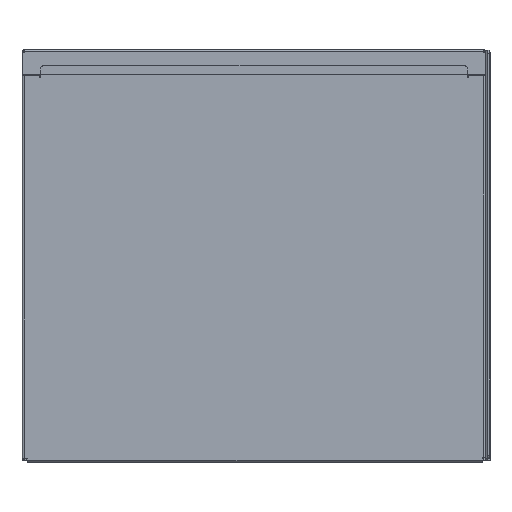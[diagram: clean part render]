
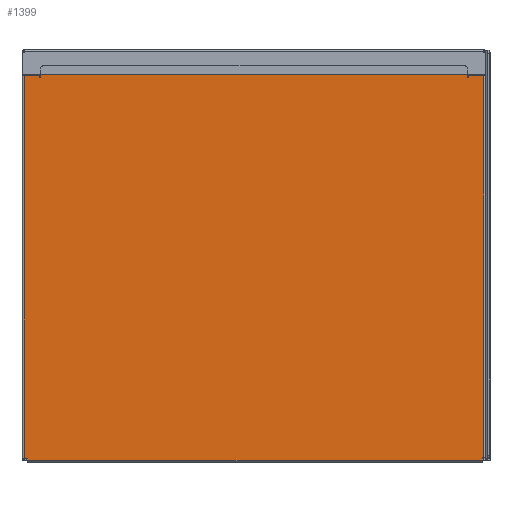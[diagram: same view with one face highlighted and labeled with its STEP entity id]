
A CAD part, top view. The second image highlights one B-rep face of the part: STEP entity #1399.
In plain terms, the highlighted planar face has unit normal (0, 0, 1) as drawn and (0, 0, -1) by its records, which use the part's own axes.
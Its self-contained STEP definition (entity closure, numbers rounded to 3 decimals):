
#9 = VECTOR ( 'NONE', #3614, 1000. ) ;
#57 = LINE ( 'NONE', #9229, #4018 ) ;
#125 = ORIENTED_EDGE ( 'NONE', *, *, #15084, .F. ) ;
#135 = ORIENTED_EDGE ( 'NONE', *, *, #16749, .F. ) ;
#613 = DIRECTION ( 'NONE',  ( 0., 0., 1. ) ) ;
#708 = CARTESIAN_POINT ( 'NONE',  ( 3420.749, 1024.791, -1. ) ) ;
#1197 = VECTOR ( 'NONE', #4254, 1000. ) ;
#1364 = VERTEX_POINT ( 'NONE', #1499 ) ;
#1399 = ADVANCED_FACE ( 'NONE', ( #12123 ), #20068, .F. ) ;
#1447 = CARTESIAN_POINT ( 'NONE',  ( 3430.399, 1025.991, -1. ) ) ;
#1499 = CARTESIAN_POINT ( 'NONE',  ( 3421.249, 1024.791, -1. ) ) ;
#1554 = CARTESIAN_POINT ( 'NONE',  ( 3421.249, 1024.791, -1. ) ) ;
#1915 = CARTESIAN_POINT ( 'NONE',  ( 3421.249, 1025.991, -1. ) ) ;
#1959 = CARTESIAN_POINT ( 'NONE',  ( 3167.449, 1029.991, -1. ) ) ;
#2096 = VERTEX_POINT ( 'NONE', #18006 ) ;
#2678 = EDGE_CURVE ( 'NONE', #18465, #21320, #8136, .T. ) ;
#2826 = LINE ( 'NONE', #6588, #20152 ) ;
#3248 = DIRECTION ( 'NONE',  ( 0., -1., 0. ) ) ;
#3355 = LINE ( 'NONE', #1554, #11690 ) ;
#3441 = CARTESIAN_POINT ( 'NONE',  ( 3428.168, 798.141, -1. ) ) ;
#3614 = DIRECTION ( 'NONE',  ( -1., 0., 0. ) ) ;
#3650 = ORIENTED_EDGE ( 'NONE', *, *, #5311, .T. ) ;
#3689 = ORIENTED_EDGE ( 'NONE', *, *, #9519, .F. ) ;
#3875 = VERTEX_POINT ( 'NONE', #16711 ) ;
#4018 = VECTOR ( 'NONE', #21022, 1000. ) ;
#4184 = EDGE_CURVE ( 'NONE', #21320, #21237, #6181, .T. ) ;
#4220 = VERTEX_POINT ( 'NONE', #7649 ) ;
#4254 = DIRECTION ( 'NONE',  ( 0., -1., 0. ) ) ;
#4328 = VERTEX_POINT ( 'NONE', #16320 ) ;
#4381 = VERTEX_POINT ( 'NONE', #1447 ) ;
#4473 = CARTESIAN_POINT ( 'NONE',  ( 3157.799, 1029.991, -1. ) ) ;
#4640 = VERTEX_POINT ( 'NONE', #18909 ) ;
#5013 = DIRECTION ( 'NONE',  ( 0., 0., 1. ) ) ;
#5311 = EDGE_CURVE ( 'NONE', #4220, #13827, #10833, .T. ) ;
#5452 = ORIENTED_EDGE ( 'NONE', *, *, #6019, .F. ) ;
#5598 = CARTESIAN_POINT ( 'NONE',  ( 3169.449, 799.256, -1. ) ) ;
#5668 = DIRECTION ( 'NONE',  ( -1., 0., 0. ) ) ;
#5734 = LINE ( 'NONE', #5598, #18090 ) ;
#5982 = VERTEX_POINT ( 'NONE', #14733 ) ;
#6019 = EDGE_CURVE ( 'NONE', #6906, #9873, #9465, .T. ) ;
#6181 = LINE ( 'NONE', #20984, #1197 ) ;
#6187 = VECTOR ( 'NONE', #21469, 1000. ) ;
#6198 = EDGE_LOOP ( 'NONE', ( #12499, #17631, #8298, #15885, #5452, #19021, #125, #11793, #9249, #17417, #135, #19046, #20725, #3689, #18496, #14352, #10155, #3650 ) ) ;
#6266 = AXIS2_PLACEMENT_3D ( 'NONE', #17710, #7618, #19411 ) ;
#6579 = CARTESIAN_POINT ( 'NONE',  ( 3169.449, 1031.991, -1. ) ) ;
#6588 = CARTESIAN_POINT ( 'NONE',  ( 3158.851, 1029.991, -1. ) ) ;
#6830 = EDGE_CURVE ( 'NONE', #4328, #4220, #5734, .T. ) ;
#6906 = VERTEX_POINT ( 'NONE', #17490 ) ;
#7266 = DIRECTION ( 'NONE',  ( -1., 0., 0. ) ) ;
#7458 = CARTESIAN_POINT ( 'NONE',  ( 3420.749, 1024.791, -1. ) ) ;
#7521 = VERTEX_POINT ( 'NONE', #7458 ) ;
#7618 = DIRECTION ( 'NONE',  ( 0., 0., 1. ) ) ;
#7649 = CARTESIAN_POINT ( 'NONE',  ( 3428.168, 799.256, -1. ) ) ;
#7945 = DIRECTION ( 'NONE',  ( 0., -1., 0. ) ) ;
#8136 = CIRCLE ( 'NONE', #6266, 2. ) ;
#8298 = ORIENTED_EDGE ( 'NONE', *, *, #14499, .T. ) ;
#8982 = CIRCLE ( 'NONE', #14973, 2. ) ;
#9183 = CARTESIAN_POINT ( 'NONE',  ( 3157.799, 1025.991, -1. ) ) ;
#9229 = CARTESIAN_POINT ( 'NONE',  ( 3166.949, 1024.791, -1. ) ) ;
#9249 = ORIENTED_EDGE ( 'NONE', *, *, #2678, .F. ) ;
#9465 = LINE ( 'NONE', #18309, #17918 ) ;
#9519 = EDGE_CURVE ( 'NONE', #4640, #1364, #3355, .T. ) ;
#9549 = EDGE_CURVE ( 'NONE', #10851, #5982, #2826, .T. ) ;
#9865 = VECTOR ( 'NONE', #20898, 1000. ) ;
#9873 = VERTEX_POINT ( 'NONE', #9183 ) ;
#9960 = CARTESIAN_POINT ( 'NONE',  ( 3169.449, 1029.991, -1. ) ) ;
#10037 = EDGE_CURVE ( 'NONE', #4328, #4381, #19592, .T. ) ;
#10155 = ORIENTED_EDGE ( 'NONE', *, *, #6830, .T. ) ;
#10628 = CARTESIAN_POINT ( 'NONE',  ( 3418.749, 1029.991, -1. ) ) ;
#10728 = CARTESIAN_POINT ( 'NONE',  ( 3169.449, 798.141, -1. ) ) ;
#10833 = LINE ( 'NONE', #16325, #19802 ) ;
#10851 = VERTEX_POINT ( 'NONE', #17341 ) ;
#10884 = EDGE_CURVE ( 'NONE', #1364, #7521, #20600, .T. ) ;
#10951 = VECTOR ( 'NONE', #17405, 1000. ) ;
#11106 = VERTEX_POINT ( 'NONE', #14669 ) ;
#11299 = EDGE_CURVE ( 'NONE', #2096, #18465, #21107, .T. ) ;
#11690 = VECTOR ( 'NONE', #3248, 1000. ) ;
#11793 = ORIENTED_EDGE ( 'NONE', *, *, #4184, .F. ) ;
#12118 = VECTOR ( 'NONE', #16871, 1000. ) ;
#12123 = FACE_OUTER_BOUND ( 'NONE', #6198, .T. ) ;
#12298 = DIRECTION ( 'NONE',  ( 1., 0., 0. ) ) ;
#12382 = DIRECTION ( 'NONE',  ( -1., 0., 0. ) ) ;
#12499 = ORIENTED_EDGE ( 'NONE', *, *, #20994, .F. ) ;
#13257 = EDGE_CURVE ( 'NONE', #4381, #4640, #13354, .T. ) ;
#13309 = LINE ( 'NONE', #16225, #17286 ) ;
#13311 = DIRECTION ( 'NONE',  ( 0., 1., 0. ) ) ;
#13354 = LINE ( 'NONE', #1915, #9 ) ;
#13473 = CARTESIAN_POINT ( 'NONE',  ( 3169.449, 1031.991, -1. ) ) ;
#13572 = LINE ( 'NONE', #17326, #14636 ) ;
#13827 = VERTEX_POINT ( 'NONE', #3441 ) ;
#13873 = VECTOR ( 'NONE', #16183, 1000. ) ;
#14340 = LINE ( 'NONE', #10728, #9865 ) ;
#14352 = ORIENTED_EDGE ( 'NONE', *, *, #10037, .F. ) ;
#14499 = EDGE_CURVE ( 'NONE', #5982, #11106, #15407, .T. ) ;
#14636 = VECTOR ( 'NONE', #5668, 1000. ) ;
#14669 = CARTESIAN_POINT ( 'NONE',  ( 3157.799, 799.569, -1. ) ) ;
#14733 = CARTESIAN_POINT ( 'NONE',  ( 3158.851, 799.569, -1. ) ) ;
#14973 = AXIS2_PLACEMENT_3D ( 'NONE', #10628, #613, #12298 ) ;
#15047 = CARTESIAN_POINT ( 'NONE',  ( 3167.449, 1024.791, -1. ) ) ;
#15084 = EDGE_CURVE ( 'NONE', #21237, #3875, #13572, .T. ) ;
#15407 = LINE ( 'NONE', #15709, #10951 ) ;
#15709 = CARTESIAN_POINT ( 'NONE',  ( 3169.449, 799.569, -1. ) ) ;
#15885 = ORIENTED_EDGE ( 'NONE', *, *, #18904, .F. ) ;
#16155 = DIRECTION ( 'NONE',  ( 0., 1., 0. ) ) ;
#16183 = DIRECTION ( 'NONE',  ( 0., -1., 0. ) ) ;
#16225 = CARTESIAN_POINT ( 'NONE',  ( 3420.749, 1024.791, -1. ) ) ;
#16320 = CARTESIAN_POINT ( 'NONE',  ( 3430.399, 799.256, -1. ) ) ;
#16325 = CARTESIAN_POINT ( 'NONE',  ( 3428.168, 1029.991, -1. ) ) ;
#16711 = CARTESIAN_POINT ( 'NONE',  ( 3166.949, 1024.791, -1. ) ) ;
#16735 = DIRECTION ( 'NONE',  ( 1., 0., 0. ) ) ;
#16749 = EDGE_CURVE ( 'NONE', #20712, #2096, #8982, .T. ) ;
#16871 = DIRECTION ( 'NONE',  ( -1., 0., 0. ) ) ;
#17176 = AXIS2_PLACEMENT_3D ( 'NONE', #9960, #5013, #16735 ) ;
#17286 = VECTOR ( 'NONE', #16155, 1000. ) ;
#17326 = CARTESIAN_POINT ( 'NONE',  ( 3167.449, 1024.791, -1. ) ) ;
#17341 = CARTESIAN_POINT ( 'NONE',  ( 3158.851, 798.141, -1. ) ) ;
#17405 = DIRECTION ( 'NONE',  ( -1., 0., 0. ) ) ;
#17417 = ORIENTED_EDGE ( 'NONE', *, *, #11299, .F. ) ;
#17490 = CARTESIAN_POINT ( 'NONE',  ( 3166.949, 1025.991, -1. ) ) ;
#17603 = EDGE_CURVE ( 'NONE', #3875, #6906, #57, .T. ) ;
#17631 = ORIENTED_EDGE ( 'NONE', *, *, #9549, .T. ) ;
#17710 = CARTESIAN_POINT ( 'NONE',  ( 3169.449, 1029.991, -1. ) ) ;
#17861 = LINE ( 'NONE', #4473, #13873 ) ;
#17918 = VECTOR ( 'NONE', #21583, 1000. ) ;
#18006 = CARTESIAN_POINT ( 'NONE',  ( 3418.749, 1031.991, -1. ) ) ;
#18090 = VECTOR ( 'NONE', #7266, 1000. ) ;
#18309 = CARTESIAN_POINT ( 'NONE',  ( 3148.149, 1025.991, -1. ) ) ;
#18465 = VERTEX_POINT ( 'NONE', #6579 ) ;
#18496 = ORIENTED_EDGE ( 'NONE', *, *, #13257, .F. ) ;
#18904 = EDGE_CURVE ( 'NONE', #9873, #11106, #17861, .T. ) ;
#18909 = CARTESIAN_POINT ( 'NONE',  ( 3421.249, 1025.991, -1. ) ) ;
#19021 = ORIENTED_EDGE ( 'NONE', *, *, #17603, .F. ) ;
#19046 = ORIENTED_EDGE ( 'NONE', *, *, #19531, .F. ) ;
#19411 = DIRECTION ( 'NONE',  ( 1., 0., 0. ) ) ;
#19531 = EDGE_CURVE ( 'NONE', #7521, #20712, #13309, .T. ) ;
#19592 = LINE ( 'NONE', #19800, #6187 ) ;
#19800 = CARTESIAN_POINT ( 'NONE',  ( 3430.399, 1029.991, -1. ) ) ;
#19802 = VECTOR ( 'NONE', #7945, 1000. ) ;
#20068 = PLANE ( 'NONE',  #17176 ) ;
#20114 = CARTESIAN_POINT ( 'NONE',  ( 3420.749, 1029.991, -1. ) ) ;
#20152 = VECTOR ( 'NONE', #13311, 1000. ) ;
#20600 = LINE ( 'NONE', #708, #21133 ) ;
#20712 = VERTEX_POINT ( 'NONE', #20114 ) ;
#20725 = ORIENTED_EDGE ( 'NONE', *, *, #10884, .F. ) ;
#20898 = DIRECTION ( 'NONE',  ( 1., 0., 0. ) ) ;
#20984 = CARTESIAN_POINT ( 'NONE',  ( 3167.449, 1024.791, -1. ) ) ;
#20994 = EDGE_CURVE ( 'NONE', #10851, #13827, #14340, .T. ) ;
#21022 = DIRECTION ( 'NONE',  ( 0., 1., 0. ) ) ;
#21107 = LINE ( 'NONE', #13473, #12118 ) ;
#21133 = VECTOR ( 'NONE', #12382, 1000. ) ;
#21237 = VERTEX_POINT ( 'NONE', #15047 ) ;
#21320 = VERTEX_POINT ( 'NONE', #1959 ) ;
#21469 = DIRECTION ( 'NONE',  ( 0., 1., 0. ) ) ;
#21583 = DIRECTION ( 'NONE',  ( -1., 0., 0. ) ) ;
